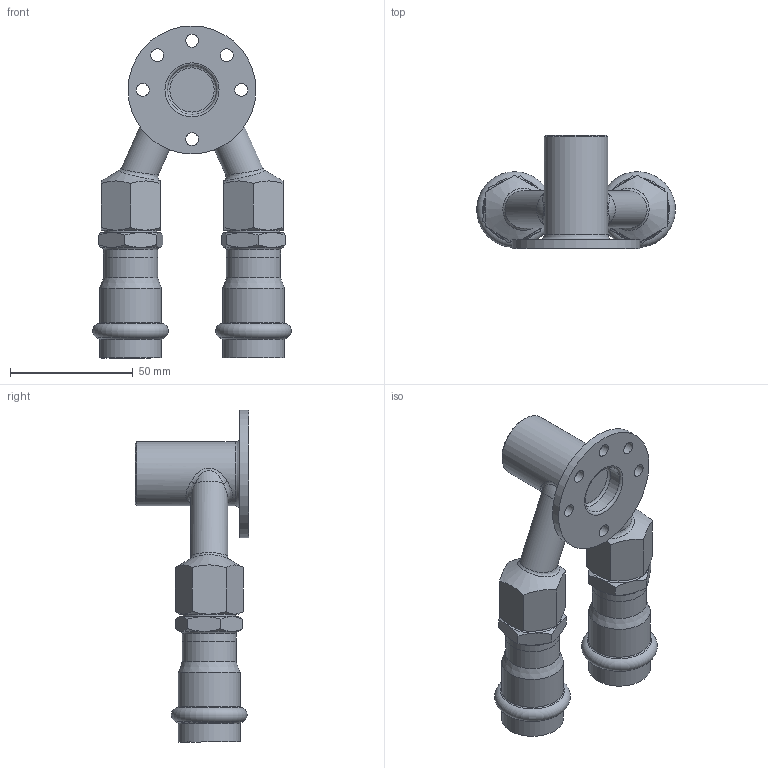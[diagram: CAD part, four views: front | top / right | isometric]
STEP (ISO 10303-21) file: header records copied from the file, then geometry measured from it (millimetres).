
FILE_DESCRIPTION((''),'2;1');
FILE_NAME('G:\Nirosan-Schmiedefeld\Technics\CAD\001 Serie 9.000\69478GZ\69478GZ221222H(1).stp','2019-01-02T12:41:08',('herberg'),(''),'Autodesk Inventor 2009','Autodesk Inventor 2009','');
FILE_SCHEMA(('AUTOMOTIVE_DESIGN { 1 0 10303 214 1 1 1 1 }'));
Length unit declared in the file: millimetre
Products named in the file (5): 69478GZ221222H(1); 69478igz12h(0); 69243G2212H(2); 69HM22P(1); AG2212(0)
Assembly tree (5 placements, depth 3):
  69478GZ221222H(1)
    69478igz12h(0)
    69243G2212H(2)  x2
      69HM22P(1)
      AG2212(0)
Bounding box: 80.78 x 46 x 135 mm (x, y, z)
Volume: 52006.9 mm3; surface area: 42379.3 mm2
Topology: 5 solids, 5 shells, 160 faces, 372 edges, 227 vertices
Faces by surface type: cone 52, plane 41, bspline 37, cylinder 22, torus 8
Full cylindrical faces by diameter (mm): 11 x2, 15 x2, 18.631 x1, 19 x2, 20 x1, 22 x4, 22.15 x4, 25.15 x4, 26 x1, 52 x1
Entity records: 6069 total; most frequent: CARTESIAN_POINT 3850, ORIENTED_EDGE 412, DIRECTION 396, EDGE_CURVE 206, AXIS2_PLACEMENT_3D 189, EDGE_LOOP 188, VERTEX_POINT 152, FACE_OUTER_BOUND 114
